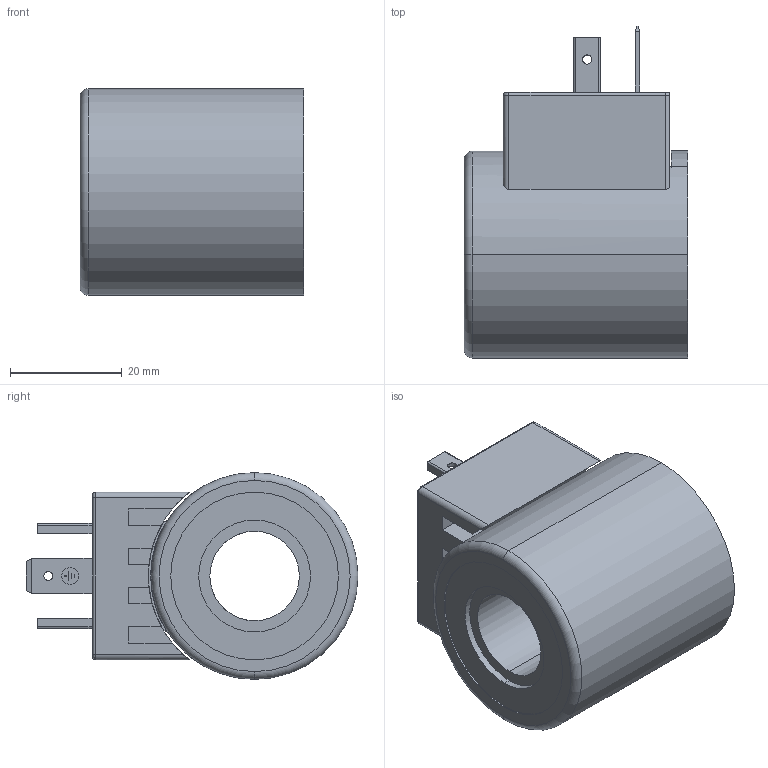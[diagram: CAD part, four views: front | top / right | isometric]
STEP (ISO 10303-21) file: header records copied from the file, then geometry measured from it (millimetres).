
FILE_DESCRIPTION (( 'STEP AP214' ), '1' );
FILE_NAME ('WDE37_16x40.STEP', '2017-03-02T12:32:04', ( '' ), ( '' ), 'SwSTEP 2.0', 'SolidWorks 2016', '' );
FILE_SCHEMA (( 'AUTOMOTIVE_DESIGN' ));
Length unit declared in the file: millimetre
Products named in the file (1): WDE37_16x40
Bounding box: 40 x 59.4 x 37 mm (x, y, z)
Volume: 42928.3 mm3; surface area: 13761.6 mm2
Topology: 3 solids, 3 shells, 178 faces, 467 edges, 304 vertices
Faces by surface type: plane 89, cylinder 72, bspline 12, cone 3, torus 2
Entity records: 9572 total; most frequent: CARTESIAN_POINT 3258, ORIENTED_EDGE 934, DIRECTION 826, EDGE_CURVE 467, VERTEX_POINT 304, AXIS2_PLACEMENT_3D 278, VECTOR 270, LINE 270
